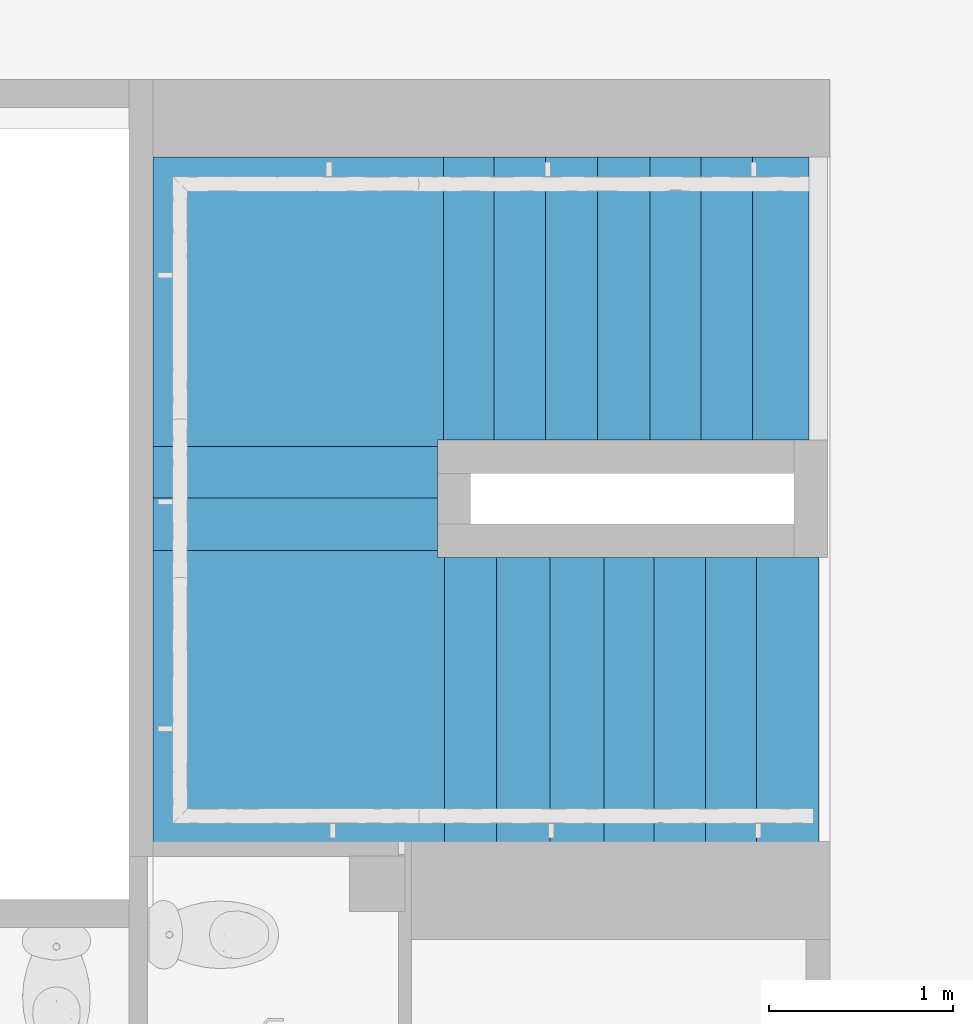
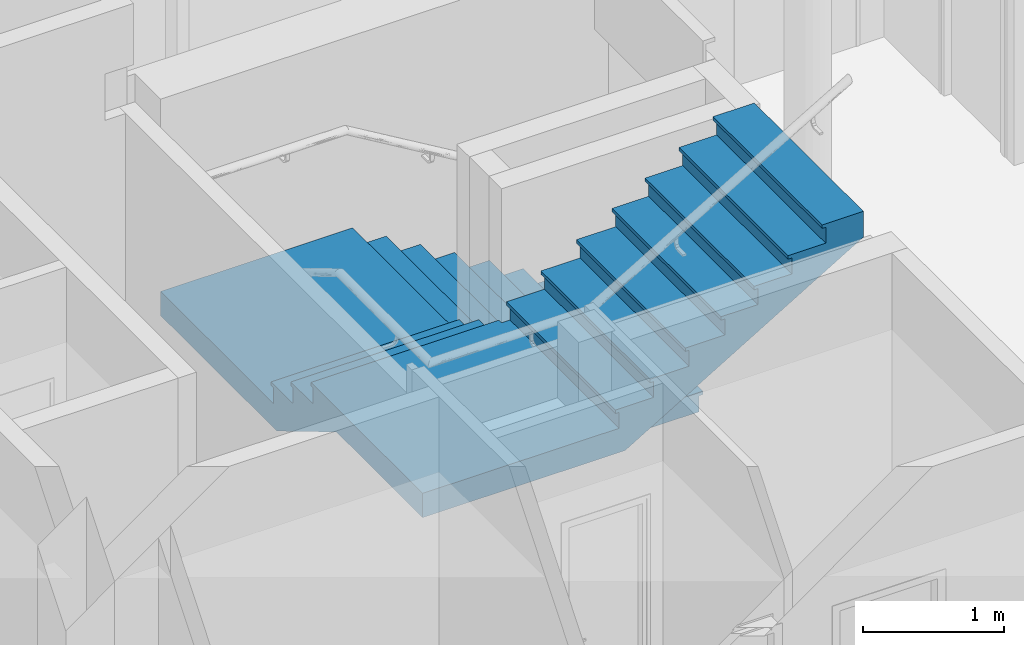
# One storey, part 82 of 97: 1 stair flight, 1 element without a shape of its own.
"""IFC4 building model written with IfcOpenShell, lengths in metres."""

from ifc_helpers import new_model, entity, si_unit, converted_unit, derived_unit, direction, frame, origin, place, context, subcontext, project, spatial, polygons, material, constituent, constituent_set, type_object, element, aggregate, save


model = new_model("IFC4")

# Units and contexts
model_context = context("Model", 3, precision=1e-05, world=origin(), true_north=direction((6.12303176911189e-17, 1.0)))
body_context = subcontext(model_context, "Body", "Model", "MODEL_VIEW")
ifc_project = project(units=[si_unit("LENGTHUNIT", "METRE"), si_unit("AREAUNIT", "SQUARE_METRE"), si_unit("VOLUMEUNIT", "CUBIC_METRE"), converted_unit("PLANEANGLEUNIT", "DEGREE", entity("IfcRatioMeasure", 0.0174532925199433), si_unit("PLANEANGLEUNIT", "RADIAN"), dimensions=[0, 0, 0, 0, 0, 0, 0]), si_unit("MASSUNIT", "GRAM", prefix="KILO"), derived_unit("MASSDENSITYUNIT", [(si_unit("MASSUNIT", "GRAM", prefix="KILO"), 1), (si_unit("LENGTHUNIT", "METRE"), -3)]), derived_unit("MOMENTOFINERTIAUNIT", [(si_unit("LENGTHUNIT", "METRE"), 4)]), si_unit("TIMEUNIT", "SECOND"), si_unit("FREQUENCYUNIT", "HERTZ"), si_unit("THERMODYNAMICTEMPERATUREUNIT", "DEGREE_CELSIUS"), derived_unit("THERMALTRANSMITTANCEUNIT", [(si_unit("MASSUNIT", "GRAM", prefix="KILO"), 1), (si_unit("THERMODYNAMICTEMPERATUREUNIT", "KELVIN"), -1), (si_unit("TIMEUNIT", "SECOND"), -3)]), derived_unit("VOLUMETRICFLOWRATEUNIT", [(si_unit("LENGTHUNIT", "METRE"), 3), (si_unit("TIMEUNIT", "SECOND"), -1)]), si_unit("ELECTRICCURRENTUNIT", "AMPERE"), si_unit("ELECTRICVOLTAGEUNIT", "VOLT"), si_unit("POWERUNIT", "WATT"), si_unit("FORCEUNIT", "NEWTON", prefix="KILO"), si_unit("ILLUMINANCEUNIT", "LUX"), si_unit("LUMINOUSFLUXUNIT", "LUMEN"), si_unit("LUMINOUSINTENSITYUNIT", "CANDELA"), derived_unit("USERDEFINED", [(si_unit("MASSUNIT", "GRAM", prefix="KILO"), -1), (si_unit("LENGTHUNIT", "METRE"), -2), (si_unit("TIMEUNIT", "SECOND"), 3), (si_unit("LUMINOUSFLUXUNIT", "LUMEN"), 1)]), derived_unit("LINEARVELOCITYUNIT", [(si_unit("LENGTHUNIT", "METRE"), 1), (si_unit("TIMEUNIT", "SECOND"), -1)]), si_unit("PRESSUREUNIT", "PASCAL"), derived_unit("USERDEFINED", [(si_unit("LENGTHUNIT", "METRE"), -2), (si_unit("MASSUNIT", "GRAM", prefix="KILO"), 1), (si_unit("TIMEUNIT", "SECOND"), -2)]), derived_unit("LINEARFORCEUNIT", [(si_unit("MASSUNIT", "GRAM", prefix="KILO"), 1), (si_unit("LENGTHUNIT", "METRE"), 1), (si_unit("TIMEUNIT", "SECOND"), -2), (si_unit("LENGTHUNIT", "METRE"), -1)]), derived_unit("PLANARFORCEUNIT", [(si_unit("MASSUNIT", "GRAM", prefix="KILO"), 1), (si_unit("LENGTHUNIT", "METRE"), 1), (si_unit("TIMEUNIT", "SECOND"), -2), (si_unit("LENGTHUNIT", "METRE"), -2)])], contexts=[model_context])

# Site, building, storey
site_placement = place(None, origin())
site = spatial("IfcSite", under=ifc_project, at=site_placement, Name="Default", CompositionType="ELEMENT")
building_placement = place(site_placement, origin())
building = spatial("IfcBuilding", under=site, at=building_placement, Name="HOTEL CONSULAIRE BOULOGNE SUR MER", CompositionType="ELEMENT")
storey_placement = place(building_placement, frame((0.0, 0.0, 3.62152697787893)))
storey = spatial("IfcBuildingStorey", under=building, at=storey_placement, Name="Niveau 1", CompositionType="ELEMENT", Elevation=3.62152697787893)

# Stair, stair flight
stair_type = type_object("IfcStairType", Name="Escalier coulé sur place:Monobloc 2", PredefinedType="NOTDEFINED")
stair_placement = place(storey_placement, origin())
stair = element("IfcStair", 1, at=stair_placement, inside=storey, type_object=stair_type, Name="Escalier coulé sur place:Escalier", ObjectType="Escalier coulé sur place:Monobloc 2", PredefinedType="NOTDEFINED")
ifc_material_1 = material(Name="carrelage 30x30")
ifc_constituent_1 = constituent(ifc_material_1, Name="carrelage 30x30", Category="Matériaux")
ifc_material_2 = material(Name="Maçonnerie - Béton", Category="Béton")
ifc_constituent_2 = constituent(ifc_material_2, Name="Maçonnerie - Béton", Category="Matériaux")
ifc_constituent_set = constituent_set(constituents=[ifc_constituent_1, ifc_constituent_2], Name="MaterialConstituentSet")
stair_flight_type = type_object("IfcStairFlightType", Name="Volée monobloc:Profondeur de structure 180", PredefinedType="NOTDEFINED")
stair_flight_placement = place(stair_placement, frame((1.75747131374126, -19.5719143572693, 0.0)))
stair_flight = element("IfcStairFlight", 2, at=stair_flight_placement, type_object=stair_flight_type, material=ifc_constituent_set, Name="Escalier coulé sur place:Escalier:582517 Run 1", ObjectType="Volée monobloc:Profondeur de structure 180", PredefinedType="NOTDEFINED", context=body_context, shape_type="Tessellation", body=[
    polygons([(3.21788920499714, 2.1830268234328, 0.16832708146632), (3.55450898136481, 2.1830268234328, 0.16832708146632), (3.55450898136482, 3.71667231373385, 0.16832708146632), (3.21788920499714, 3.71667231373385, 0.16832708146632), (3.21788920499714, 2.1830268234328, 0.13832708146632), (3.21788920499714, 3.71667231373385, 0.13832708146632), (3.55450898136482, 3.71667231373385, 0.13832708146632), (3.55450898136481, 2.1830268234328, 0.13832708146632)], [[[4, 1, 2, 3]], [[7, 8, 5, 6]], [[2, 1, 5, 8]], [[3, 2, 8, 7]], [[4, 3, 7, 6]], [[1, 4, 6, 5]]], closed=True),
    polygons([(2.93988920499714, 2.1830268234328, 0.33665416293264), (3.24788920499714, 2.1830268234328, 0.33665416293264), (3.24788920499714, 3.71667231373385, 0.33665416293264), (2.93988920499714, 3.71667231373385, 0.33665416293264), (2.93988920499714, 2.1830268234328, 0.30665416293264), (2.93988920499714, 3.71667231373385, 0.30665416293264), (3.24788920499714, 3.71667231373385, 0.30665416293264), (3.24788920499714, 2.1830268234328, 0.30665416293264)], [[[4, 1, 2, 3]], [[7, 8, 5, 6]], [[2, 1, 5, 8]], [[3, 2, 8, 7]], [[4, 3, 7, 6]], [[1, 4, 6, 5]]], closed=True),
    polygons([(2.37727978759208, 2.1830268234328, 0.67330832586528), (2.69188920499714, 2.18302682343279, 0.67330832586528), (2.69188920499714, 3.71667231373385, 0.67330832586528), (2.37727978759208, 3.71667231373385, 0.67330832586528), (2.37727978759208, 2.1830268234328, 0.64330832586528), (2.37727978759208, 3.71667231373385, 0.64330832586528), (2.69188920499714, 3.71667231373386, 0.64330832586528), (2.69188920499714, 2.1830268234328, 0.64330832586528)], [[[4, 1, 2, 3]], [[7, 8, 5, 6]], [[2, 1, 5, 8]], [[3, 2, 8, 7]], [[4, 3, 7, 6]], [[1, 4, 6, 5]]], closed=True),
    polygons([(2.0976635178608, 2.1830268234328, 0.8416354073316), (2.40727978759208, 2.1830268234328, 0.8416354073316), (2.40727978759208, 3.71667231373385, 0.8416354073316), (2.0976635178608, 3.71667231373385, 0.8416354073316), (2.0976635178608, 2.1830268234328, 0.8116354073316), (2.0976635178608, 3.71667231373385, 0.8116354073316), (2.40727978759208, 3.71667231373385, 0.8116354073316), (2.40727978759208, 2.1830268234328, 0.8116354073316)], [[[4, 1, 2, 3]], [[7, 8, 5, 6]], [[2, 1, 5, 8]], [[3, 2, 8, 7]], [[4, 3, 7, 6]], [[1, 4, 6, 5]]], closed=True),
    polygons([(1.8176635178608, 2.1830268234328, 1.00996248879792), (2.1276635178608, 2.1830268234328, 1.00996248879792), (2.1276635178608, 3.71667231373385, 1.00996248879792), (1.8176635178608, 3.71667231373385, 1.00996248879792), (1.8176635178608, 2.1830268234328, 0.97996248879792), (1.8176635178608, 3.71667231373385, 0.97996248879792), (2.1276635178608, 3.71667231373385, 0.97996248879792), (2.1276635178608, 2.1830268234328, 0.97996248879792)], [[[4, 1, 2, 3]], [[7, 8, 5, 6]], [[2, 1, 5, 8]], [[3, 2, 8, 7]], [[4, 3, 7, 6]], [[1, 4, 6, 5]]], closed=True),
    polygons([(1.54283104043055, 2.1830268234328, 1.17828957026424), (1.8476635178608, 2.1830268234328, 1.17828957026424), (1.8476635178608, 3.71667231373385, 1.17828957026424), (1.54283104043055, 3.71667231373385, 1.17828957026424), (1.54283104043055, 2.1830268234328, 1.14828957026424), (1.54283104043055, 3.71667231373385, 1.14828957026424), (1.8476635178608, 3.71667231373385, 1.14828957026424), (1.8476635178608, 2.1830268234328, 1.14828957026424)], [[[4, 1, 2, 3]], [[7, 8, 5, 6]], [[2, 1, 5, 8]], [[3, 2, 8, 7]], [[4, 3, 7, 6]], [[1, 4, 6, 5]]], closed=True),
    polygons([(1.53998364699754, 2.11792888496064, 1.34661665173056), (1.53998364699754, 2.1830268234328, 1.34661665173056), (1.57283104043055, 2.1830268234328, 1.34661665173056), (1.57283104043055, 3.71667231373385, 1.34661665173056), (1.89501747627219e-15, 3.71667231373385, 1.34661665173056), (1.89501747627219e-15, 2.11792888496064, 1.34661665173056), (1.53998364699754, 2.11792888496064, 1.31661665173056), (1.89501747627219e-15, 2.11792888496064, 1.31661665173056), (1.89501747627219e-15, 3.71667231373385, 1.31661665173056), (1.57283104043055, 3.71667231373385, 1.31661665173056), (1.57283104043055, 2.1830268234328, 1.31661665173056), (1.53998364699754, 2.1830268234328, 1.31661665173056)], [[[2, 3, 4, 5, 6, 1]], [[9, 10, 11, 12, 7, 8]], [[2, 1, 7, 12]], [[4, 3, 11, 10]], [[5, 4, 10, 9]], [[1, 6, 8, 7]], [[3, 2, 12, 11]], [[6, 5, 9, 8]]], closed=True),
    polygons([(1.53998364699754, 1.83892888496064, 1.51494373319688), (1.53998364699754, 2.14792888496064, 1.51494373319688), (1.89501747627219e-15, 2.14792888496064, 1.51494373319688), (1.89501747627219e-15, 1.83892888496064, 1.51494373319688), (1.53998364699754, 1.83892888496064, 1.48494373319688), (1.89501747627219e-15, 1.83892888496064, 1.48494373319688), (8.12150346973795e-16, 2.14792888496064, 1.48494373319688), (1.53998364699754, 2.14792888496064, 1.48494373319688)], [[[4, 1, 2, 3]], [[7, 8, 5, 6]], [[2, 1, 5, 8]], [[3, 2, 8, 7]], [[4, 3, 7, 6]], [[1, 4, 6, 5]]], closed=True),
    polygons([(1.53998364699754, 1.55392888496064, 1.6832708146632), (1.53998364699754, 1.86892888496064, 1.6832708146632), (1.89501747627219e-15, 1.86892888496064, 1.6832708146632), (1.89501747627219e-15, 1.55392888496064, 1.6832708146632), (1.53998364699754, 1.55392888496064, 1.6532708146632), (1.89501747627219e-15, 1.55392888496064, 1.6532708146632), (2.70716782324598e-16, 1.86892888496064, 1.6532708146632), (1.53998364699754, 1.86892888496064, 1.6532708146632)], [[[4, 1, 2, 3]], [[7, 8, 5, 6]], [[2, 1, 5, 8]], [[3, 2, 8, 7]], [[4, 3, 7, 6]], [[1, 4, 6, 5]]], closed=True),
    polygons([(1.60816075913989, 1.54702682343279, 1.85159789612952), (1.53998364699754, 1.54702682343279, 1.85159789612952), (1.53998364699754, 1.58392888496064, 1.85159789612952), (1.89501747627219e-15, 1.58392888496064, 1.85159789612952), (1.89501747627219e-15, 0.0, 1.85159789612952), (1.60816075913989, 0.0, 1.85159789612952), (1.60816075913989, 1.54702682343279, 1.82159789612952), (1.60816075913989, 0.0, 1.82159789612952), (1.89501747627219e-15, 0.0, 1.82159789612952), (2.70716782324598e-16, 1.58392888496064, 1.82159789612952), (1.53998364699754, 1.58392888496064, 1.82159789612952), (1.53998364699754, 1.54702682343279, 1.82159789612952)], [[[2, 3, 4, 5, 6, 1]], [[9, 10, 11, 12, 7, 8]], [[2, 1, 7, 12]], [[4, 3, 11, 10]], [[5, 4, 10, 9]], [[1, 6, 8, 7]], [[3, 2, 12, 11]], [[6, 5, 9, 8]]], closed=True),
    polygons([(1.89098836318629, 1.54702682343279, 2.01992497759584), (1.57816075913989, 1.5470268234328, 2.01992497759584), (1.57816075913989, 0.0, 2.01992497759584), (1.89098836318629, 0.0, 2.01992497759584), (1.89098836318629, 1.54702682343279, 1.98992497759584), (1.89098836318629, 0.0, 1.98992497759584), (1.57816075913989, 4.33146851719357e-15, 1.98992497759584), (1.57816075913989, 1.54702682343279, 1.98992497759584)], [[[4, 1, 2, 3]], [[7, 8, 5, 6]], [[2, 1, 5, 8]], [[3, 2, 8, 7]], [[4, 3, 7, 6]], [[1, 4, 6, 5]]], closed=True),
    polygons([(2.18198836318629, 1.54702682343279, 2.18825205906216), (1.86098836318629, 1.5470268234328, 2.18825205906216), (1.86098836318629, 0.0, 2.18825205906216), (2.18198836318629, 0.0, 2.18825205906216), (2.18198836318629, 1.54702682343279, 2.15825205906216), (2.18198836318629, 0.0, 2.15825205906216), (1.86098836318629, 0.0, 2.15825205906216), (1.86098836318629, 1.54702682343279, 2.15825205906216)], [[[4, 1, 2, 3]], [[7, 8, 5, 6]], [[2, 1, 5, 8]], [[3, 2, 8, 7]], [[4, 3, 7, 6]], [[1, 4, 6, 5]]], closed=True),
    polygons([(2.47398836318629, 1.54702682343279, 2.35657914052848), (2.15198836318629, 1.5470268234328, 2.35657914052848), (2.15198836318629, 0.0, 2.35657914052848), (2.47398836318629, 0.0, 2.35657914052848), (2.47398836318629, 1.54702682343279, 2.32657914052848), (2.47398836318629, 0.0, 2.32657914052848), (2.15198836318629, 0.0, 2.32657914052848), (2.15198836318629, 1.54702682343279, 2.32657914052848)], [[[4, 1, 2, 3]], [[7, 8, 5, 6]], [[2, 1, 5, 8]], [[3, 2, 8, 7]], [[4, 3, 7, 6]], [[1, 4, 6, 5]]], closed=True),
    polygons([(2.74398836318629, 1.54702682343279, 2.5249062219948), (2.44398836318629, 1.54702682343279, 2.5249062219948), (2.44398836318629, 0.0, 2.5249062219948), (2.74398836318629, 0.0, 2.5249062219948), (2.74398836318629, 1.54702682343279, 2.4949062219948), (2.74398836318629, 0.0, 2.4949062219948), (2.44398836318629, 0.0, 2.4949062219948), (2.44398836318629, 1.54702682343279, 2.4949062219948)], [[[4, 1, 2, 3]], [[7, 8, 5, 6]], [[2, 1, 5, 8]], [[3, 2, 8, 7]], [[4, 3, 7, 6]], [[1, 4, 6, 5]]], closed=True),
    polygons([(2.66188920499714, 2.1830268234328, 0.50498124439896), (2.96988920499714, 2.1830268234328, 0.50498124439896), (2.96988920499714, 3.71667231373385, 0.50498124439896), (2.66188920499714, 3.71667231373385, 0.50498124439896), (2.66188920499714, 2.1830268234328, 0.47498124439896), (2.66188920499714, 3.71667231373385, 0.47498124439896), (2.96988920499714, 3.71667231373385, 0.47498124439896), (2.96988920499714, 2.1830268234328, 0.47498124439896)], [[[4, 1, 2, 3]], [[7, 8, 5, 6]], [[2, 1, 5, 8]], [[3, 2, 8, 7]], [[4, 3, 7, 6]], [[1, 4, 6, 5]]], closed=True),
    polygons([(3.02241508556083, 1.54702682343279, 2.69323330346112), (2.71398836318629, 1.54702682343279, 2.69323330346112), (2.71398836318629, 0.0, 2.69323330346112), (3.02241508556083, 0.0, 2.69323330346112), (3.02241508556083, 1.54702682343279, 2.66323330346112), (3.02241508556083, 0.0, 2.66323330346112), (2.71398836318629, 0.0, 2.66323330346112), (2.71398836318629, 1.54702682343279, 2.66323330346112)], [[[4, 1, 2, 3]], [[7, 8, 5, 6]], [[2, 1, 5, 8]], [[3, 2, 8, 7]], [[4, 3, 7, 6]], [[1, 4, 6, 5]]], closed=True),
    polygons([(3.30084180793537, 1.54702682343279, 2.86156038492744), (2.99241508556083, 1.54702682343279, 2.86156038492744), (2.99241508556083, 0.0, 2.86156038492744), (3.30084180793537, 0.0, 2.86156038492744), (3.30084180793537, 1.54702682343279, 2.83156038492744), (3.30084180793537, 0.0, 2.83156038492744), (2.99241508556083, 0.0, 2.83156038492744), (2.99241508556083, 1.54702682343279, 2.83156038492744)], [[[4, 1, 2, 3]], [[7, 8, 5, 6]], [[2, 1, 5, 8]], [[3, 2, 8, 7]], [[4, 3, 7, 6]], [[1, 4, 6, 5]]], closed=True),
    polygons([(3.60926853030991, 1.54702682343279, 3.02988746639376), (3.27084180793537, 1.54702682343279, 3.02988746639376), (3.27084180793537, 0.0, 3.02988746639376), (3.60926853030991, 0.0, 3.02988746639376), (3.60926853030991, 1.54702682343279, 2.99988746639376), (3.60926853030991, 0.0, 2.99988746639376), (3.27084180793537, 0.0, 2.99988746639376), (3.27084180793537, 1.54702682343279, 2.99988746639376)], [[[4, 1, 2, 3]], [[7, 8, 5, 6]], [[2, 1, 5, 8]], [[3, 2, 8, 7]], [[4, 3, 7, 6]], [[1, 4, 6, 5]]], closed=True),
    polygons([(3.21788920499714, 2.1830268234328, 0.13832708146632), (3.52450898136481, 2.1830268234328, 0.13832708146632), (3.52450898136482, 3.71667231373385, 0.13832708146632), (3.21788920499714, 3.71667231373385, 0.13832708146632), (3.21788920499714, 2.1830268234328, 0.0), (3.52450898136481, 2.1830268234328, 0.0), (3.52450898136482, 3.71667231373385, 0.0), (3.21788920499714, 3.71667231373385, 0.0), (2.37727978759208, 2.1830268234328, 0.64330832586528), (2.66188920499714, 2.1830268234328, 0.64330832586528), (2.66188920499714, 3.71667231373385, 0.64330832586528), (2.37727978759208, 3.71667231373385, 0.64330832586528), (2.37727978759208, 2.1830268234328, 0.43497839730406), (2.66188920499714, 2.1830268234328, 0.263375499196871), (2.66188920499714, 2.1830268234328, 0.47498124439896), (2.66188920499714, 3.71667231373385, 0.47498124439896), (2.66188920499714, 3.71667231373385, 0.263375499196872), (2.37727978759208, 3.71667231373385, 0.43497839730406), (2.0976635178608, 2.1830268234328, 0.8116354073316), (2.37727978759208, 2.1830268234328, 0.8116354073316), (2.37727978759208, 3.71667231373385, 0.8116354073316), (2.0976635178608, 3.71667231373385, 0.8116354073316), (2.0976635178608, 2.1830268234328, 0.603570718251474), (2.0976635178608, 3.71667231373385, 0.603570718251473), (1.8176635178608, 2.1830268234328, 0.97996248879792), (2.0976635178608, 2.1830268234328, 0.97996248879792), (2.0976635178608, 3.71667231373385, 0.97996248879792), (1.8176635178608, 3.71667231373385, 0.97996248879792), (1.8176635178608, 2.1830268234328, 0.772394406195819), (1.8176635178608, 3.71667231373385, 0.772394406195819), (1.54283104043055, 2.1830268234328, 1.14828957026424), (1.8176635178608, 2.1830268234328, 1.14828957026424), (1.8176635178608, 3.71667231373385, 1.14828957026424), (1.54283104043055, 3.71667231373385, 1.14828957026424), (1.54283104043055, 2.1830268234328, 0.938102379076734), (1.54283104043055, 3.71667231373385, 0.938102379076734), (1.53998364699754, 2.11792888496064, 1.31661665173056), (1.53998364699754, 2.1830268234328, 1.31661665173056), (1.54283104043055, 2.1830268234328, 1.31661665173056), (1.54283104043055, 3.71667231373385, 1.31661665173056), (1.21358816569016, 3.71667231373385, 1.31661665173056), (1.89501747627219e-15, 3.71667231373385, 1.31661665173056), (1.89501747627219e-15, 2.11792888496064, 1.31661665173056), (1.53998364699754, 2.11792888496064, 1.13661665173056), (1.53998364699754, 2.1830268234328, 1.13661665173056), (1.21358816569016, 3.71667231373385, 1.13661665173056), (1.89501747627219e-15, 3.71667231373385, 1.13661665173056), (1.53998364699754, 2.11792888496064, 1.48494373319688), (1.89501747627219e-15, 2.11792888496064, 1.48494373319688), (1.89501747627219e-15, 2.0682925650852, 1.48494373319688), (1.89501747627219e-15, 1.83892888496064, 1.48494373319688), (1.53998364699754, 1.83892888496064, 1.48494373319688), (1.53998364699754, 2.0682925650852, 1.48494373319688), (1.53998364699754, 1.83892888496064, 1.27352487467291), (1.53998364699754, 2.0682925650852, 1.13661665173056), (1.89501747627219e-15, 2.11792888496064, 1.13661665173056), (1.89501747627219e-15, 2.0682925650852, 1.13661665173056), (1.89501747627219e-15, 1.83892888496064, 1.27352487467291), (1.53998364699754, 1.55392888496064, 1.6532708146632), (1.53998364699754, 1.83892888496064, 1.6532708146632), (1.89501747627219e-15, 1.83892888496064, 1.6532708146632), (1.89501747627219e-15, 1.55392888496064, 1.6532708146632), (1.53998364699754, 1.55392888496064, 1.44364266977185), (1.89501747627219e-15, 1.55392888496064, 1.44364266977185), (1.60816075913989, 1.54702682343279, 1.82159789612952), (1.53998364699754, 1.54702682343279, 1.82159789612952), (1.53998364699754, 1.55392888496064, 1.82159789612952), (1.89501747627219e-15, 1.55392888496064, 1.82159789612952), (1.89501747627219e-15, 1.2222925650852, 1.82159789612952), (1.89501747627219e-15, 0.0, 1.82159789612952), (1.60816075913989, 0.0, 1.82159789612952), (1.60816075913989, 1.54702682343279, 1.64159789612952), (1.53998364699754, 1.54702682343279, 1.64159789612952), (1.89501747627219e-15, 1.2222925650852, 1.64159789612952), (1.89501747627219e-15, 0.0, 1.64159789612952), (1.60816075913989, 1.54702682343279, 1.98992497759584), (1.60816075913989, 0.0, 1.98992497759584), (1.65777992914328, 0.0, 1.98992497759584), (1.89098836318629, 0.0, 1.98992497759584), (1.89098836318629, 1.54702682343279, 1.98992497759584), (1.65777992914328, 1.54702682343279, 1.98992497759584), (1.89098836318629, 1.54702682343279, 1.78074506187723), (1.65777992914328, 1.54702682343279, 1.64159789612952), (1.60816075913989, 0.0, 1.64159789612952), (1.65777992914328, 0.0, 1.64159789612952), (1.89098836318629, 0.0, 1.78074506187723), (2.18198836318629, 1.54702682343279, 2.15825205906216), (1.89098836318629, 1.54702682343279, 2.15825205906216), (1.89098836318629, 0.0, 2.15825205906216), (2.18198836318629, 0.0, 2.15825205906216), (2.18198836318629, 1.54702682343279, 1.95437439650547), (2.18198836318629, 0.0, 1.95437439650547), (2.47398836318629, 1.54702682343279, 2.32657914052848), (2.18198836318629, 1.54702682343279, 2.32657914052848), (2.18198836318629, 0.0, 2.32657914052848), (2.47398836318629, 0.0, 2.32657914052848), (2.47398836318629, 1.54702682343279, 2.12860039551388), (2.47398836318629, 0.0, 2.12860039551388), (2.74398836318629, 1.54702682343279, 2.4949062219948), (2.47398836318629, 1.54702682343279, 2.4949062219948), (2.47398836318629, 0.0, 2.4949062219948), (2.74398836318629, 0.0, 2.4949062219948), (2.74398836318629, 1.54702682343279, 2.28969977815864), (2.74398836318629, 0.0, 2.28969977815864), (3.16782269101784, 2.1830268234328, 0.0), (3.09870669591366, 2.1830268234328, 0.0), (3.09870669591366, 3.71667231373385, 0.0), (3.16782269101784, 3.71667231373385, 0.0), (1.21358816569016, 2.1830268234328, 1.13661665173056), (2.93988920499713, 3.71667231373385, 0.0957576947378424), (2.93988920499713, 2.1830268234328, 0.0957576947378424), (1.53998364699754, 1.2222925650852, 1.64159789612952), (3.02241508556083, 1.54702682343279, 2.45582708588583), (3.30084180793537, 1.54702682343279, 2.62195439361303), (3.60926853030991, 1.54702682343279, 2.80598163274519), (3.60926853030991, 0.0, 2.80598163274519), (3.30084180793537, 0.0, 2.62195439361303), (3.02241508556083, 0.0, 2.45582708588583), (3.21788920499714, 2.1830268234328, 0.30665416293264), (3.21788920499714, 3.71667231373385, 0.30665416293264), (3.16782269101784, 3.71667231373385, 0.30665416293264), (2.93988920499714, 3.71667231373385, 0.30665416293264), (2.93988920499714, 2.1830268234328, 0.30665416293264), (3.16782269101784, 2.1830268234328, 0.30665416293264), (2.93988920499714, 2.1830268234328, 0.47498124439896), (2.93988920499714, 3.71667231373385, 0.47498124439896), (3.02241508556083, 1.54702682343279, 2.66323330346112), (2.74398836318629, 1.54702682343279, 2.66323330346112), (2.74398836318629, 0.0, 2.66323330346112), (3.02241508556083, 0.0, 2.66323330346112), (3.30084180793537, 1.54702682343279, 2.83156038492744), (3.02241508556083, 1.54702682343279, 2.83156038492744), (3.02241508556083, 0.0, 2.83156038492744), (3.30084180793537, 0.0, 2.83156038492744), (3.60926853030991, 1.54702682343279, 2.99988746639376), (3.30084180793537, 1.54702682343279, 2.99988746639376), (3.30084180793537, 0.0, 2.99988746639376), (3.60926853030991, 0.0, 2.99988746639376)], [[[4, 1, 2, 3]], [[12, 9, 10, 11]], [[22, 19, 20, 21]], [[28, 25, 26, 27]], [[34, 31, 32, 33]], [[38, 39, 40, 41, 42, 43, 37]], [[51, 52, 53, 48, 49, 50]], [[62, 59, 60, 61]], [[66, 67, 68, 69, 70, 71, 65]], [[79, 80, 81, 76, 77, 78]], [[90, 87, 88, 89]], [[96, 93, 94, 95]], [[102, 99, 100, 101]], [[122, 123, 124, 119, 120, 121]], [[16, 15, 125, 126]], [[130, 127, 128, 129]], [[134, 131, 132, 133]], [[138, 135, 136, 137]], [[2, 1, 119, 124, 123, 125, 15, 10, 9, 20, 19, 26, 25, 32, 31, 39, 38, 45, 109, 35, 29, 23, 13, 14, 111, 106, 105, 5, 6]], [[78, 77, 71, 70, 75, 84, 85, 86, 92, 98, 104, 118, 117, 116, 138, 137, 134, 133, 130, 129, 102, 101, 96, 95, 90, 89, 79]], [[3, 2, 6, 7]], [[11, 10, 15, 16]], [[21, 20, 9, 12]], [[27, 26, 19, 22]], [[33, 32, 25, 28]], [[38, 37, 48, 53, 52, 60, 59, 67, 66, 73, 112, 63, 54, 55, 44, 45]], [[40, 39, 31, 34]], [[120, 119, 1, 4]], [[126, 125, 123, 122]], [[135, 138, 116, 115]], [[4, 3, 7, 8, 108, 107, 110, 17, 18, 24, 30, 36, 46, 47, 42, 41, 40, 34, 33, 28, 27, 22, 21, 12, 11, 16, 126, 122, 121, 120]], [[49, 48, 37, 43]], [[61, 60, 52, 51]], [[66, 65, 76, 81, 80, 88, 87, 94, 93, 100, 99, 128, 127, 132, 131, 136, 135, 115, 114, 113, 103, 97, 91, 82, 83, 72, 73]], [[68, 67, 59, 62]], [[50, 49, 43, 42, 47, 56, 57, 58, 64, 74, 75, 70, 69, 68, 62, 61, 51]], [[77, 76, 65, 71]], [[89, 88, 80, 79]], [[95, 94, 87, 90]], [[101, 100, 93, 96]], [[129, 128, 99, 102]], [[133, 132, 127, 130]], [[137, 136, 131, 134]], [[107, 108, 8, 7, 6, 5, 105, 106]], [[47, 46, 109, 45, 44, 55, 57, 56]], [[75, 74, 112, 73, 72, 83, 85, 84]], [[35, 109, 46, 36, 30, 24, 18, 17, 110, 107, 106, 111, 14, 13, 23, 29]], [[58, 57, 55, 54, 63, 112, 74, 64]], [[86, 85, 83, 82, 91, 97, 103, 113, 114, 115, 116, 117, 118, 104, 98, 92]]], closed=True),
])
aggregate(stair, [stair_flight])

save(model, "model.ifc")
